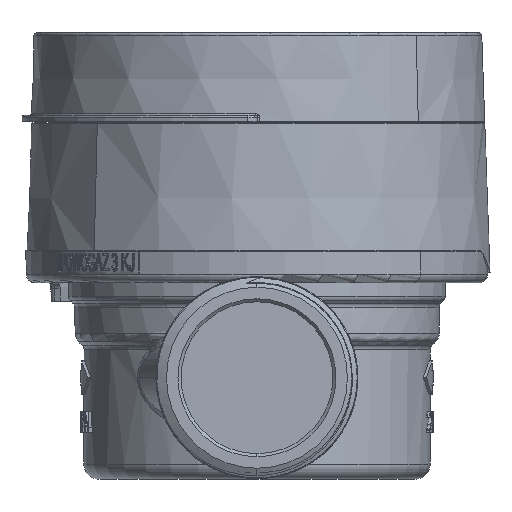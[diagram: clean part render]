
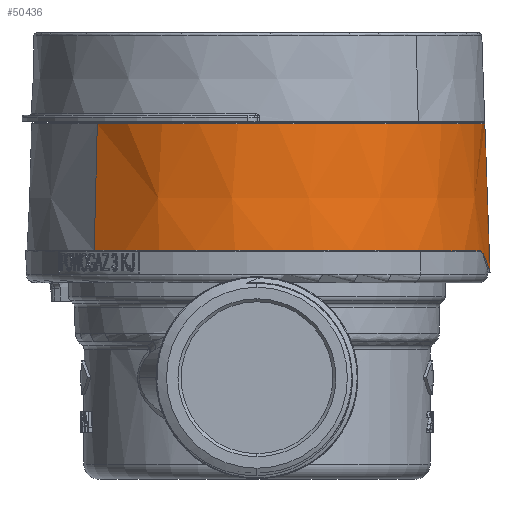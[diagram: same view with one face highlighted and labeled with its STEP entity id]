
A CAD part, left-side view. The second image highlights one B-rep face of the part: STEP entity #50436.
In plain terms, the highlighted conical face has half-angle 2 degrees and reference radius 37.9 mm.
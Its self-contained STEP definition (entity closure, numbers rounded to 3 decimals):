
#737 = DIRECTION ( 'NONE',  ( -1., 0., 0. ) ) ;
#5409 = VECTOR ( 'NONE', #50348, 1000. ) ;
#8907 = CARTESIAN_POINT ( 'NONE',  ( 24.17, 0.804, 29.559 ) ) ;
#11148 = EDGE_CURVE ( 'NONE', #49175, #13322, #40008, .T. ) ;
#11623 = CARTESIAN_POINT ( 'NONE',  ( 19.197, 3.362, 32.904 ) ) ;
#12052 = VERTEX_POINT ( 'NONE', #87187 ) ;
#12361 = CARTESIAN_POINT ( 'NONE',  ( 20.892, 2.696, 31.881 ) ) ;
#12384 = CARTESIAN_POINT ( 'NONE',  ( 18.419, 3.483, 33.341 ) ) ;
#12770 = DIRECTION ( 'NONE',  ( 0., -1., 0. ) ) ;
#13322 = VERTEX_POINT ( 'NONE', #12361 ) ;
#13926 = CARTESIAN_POINT ( 'NONE',  ( 0., 24.457, 0. ) ) ;
#16018 = CARTESIAN_POINT ( 'NONE',  ( 25.54, 0.226, 28.411 ) ) ;
#16767 = CARTESIAN_POINT ( 'NONE',  ( 25.385, 0.271, 28.548 ) ) ;
#16937 = EDGE_LOOP ( 'NONE', ( #69952, #126619, #107500, #19996, #81146, #101990, #61844, #57044 ) ) ;
#17194 = CONICAL_SURFACE ( 'NONE', #103723, 37.9, 0.035 ) ;
#19996 = ORIENTED_EDGE ( 'NONE', *, *, #41094, .T. ) ;
#21385 = EDGE_CURVE ( 'NONE', #138405, #56427, #88611, .T. ) ;
#23556 = LINE ( 'NONE', #35590, #130795 ) ;
#24172 = EDGE_CURVE ( 'NONE', #13322, #138405, #31382, .T. ) ;
#27313 = CARTESIAN_POINT ( 'NONE',  ( 25.571, 0.217, 28.383 ) ) ;
#28042 = CARTESIAN_POINT ( 'NONE',  ( 27.019, 0.002, 27.019 ) ) ;
#29565 = CARTESIAN_POINT ( 'NONE',  ( 25.588, 0.212, 28.368 ) ) ;
#31382 =( BOUNDED_CURVE ( )  B_SPLINE_CURVE ( 3, ( #37495, #83412, #96186, #129303 ),
 .UNSPECIFIED., .F., .F. ) 
 B_SPLINE_CURVE_WITH_KNOTS ( ( 4, 4 ),
 ( 5.276, 5.382 ),
 .UNSPECIFIED. ) 
 CURVE ( )  GEOMETRIC_REPRESENTATION_ITEM ( )  RATIONAL_B_SPLINE_CURVE ( ( 1., 0.999, 0.999, 1. ) ) 
 REPRESENTATION_ITEM ( '' )  );
#33374 = DIRECTION ( 'NONE',  ( -0.035, -0.999, 0. ) ) ;
#35590 = CARTESIAN_POINT ( 'NONE',  ( -37.9, 8.9, 0. ) ) ;
#36487 = VERTEX_POINT ( 'NONE', #145876 ) ;
#37495 = CARTESIAN_POINT ( 'NONE',  ( 20.892, 2.696, 31.881 ) ) ;
#37883 = CARTESIAN_POINT ( 'NONE',  ( 24.17, 0.804, 29.559 ) ) ;
#39380 = CARTESIAN_POINT ( 'NONE',  ( 24.988, 0.409, 28.889 ) ) ;
#40008 = B_SPLINE_CURVE_WITH_KNOTS ( 'NONE', 3,
 ( #94384, #83066, #12384, #105636, #11623, #103446, #128225, #68802 ),
 .UNSPECIFIED., .F., .F.,
 ( 4, 2, 2, 4 ),
 ( 0., 0.25, 0.5, 1. ),
 .UNSPECIFIED. ) ;
#41094 = EDGE_CURVE ( 'NONE', #12052, #49175, #98157, .T. ) ;
#44434 = DIRECTION ( 'NONE',  ( 0., -1., 0. ) ) ;
#48571 = DIRECTION ( 'NONE',  ( 0., -1., 0. ) ) ;
#49175 = VERTEX_POINT ( 'NONE', #141321 ) ;
#50348 = DIRECTION ( 'NONE',  ( 0.025, -0.999, 0.025 ) ) ;
#50436 = ADVANCED_FACE ( 'NONE', ( #103851 ), #17194, .T. ) ;
#56427 = VERTEX_POINT ( 'NONE', #118357 ) ;
#57044 = ORIENTED_EDGE ( 'NONE', *, *, #124590, .F. ) ;
#60295 = EDGE_CURVE ( 'NONE', #36487, #131196, #97787, .T. ) ;
#61309 = DIRECTION ( 'NONE',  ( 1., 0., 0. ) ) ;
#61844 = ORIENTED_EDGE ( 'NONE', *, *, #21385, .T. ) ;
#62620 = DIRECTION ( 'NONE',  ( 0., 1., 0. ) ) ;
#68802 = CARTESIAN_POINT ( 'NONE',  ( 20.892, 2.696, 31.881 ) ) ;
#69952 = ORIENTED_EDGE ( 'NONE', *, *, #60295, .T. ) ;
#74441 = EDGE_CURVE ( 'NONE', #126561, #12052, #23556, .T. ) ;
#76207 = CARTESIAN_POINT ( 'NONE',  ( 25.169, 0.341, 28.735 ) ) ;
#81091 = AXIS2_PLACEMENT_3D ( 'NONE', #119777, #62620, #131831 ) ;
#81146 = ORIENTED_EDGE ( 'NONE', *, *, #11148, .T. ) ;
#81155 = CARTESIAN_POINT ( 'NONE',  ( -37.357, 24.457, 0. ) ) ;
#83066 = CARTESIAN_POINT ( 'NONE',  ( 18.157, 3.5, 33.484 ) ) ;
#83412 = CARTESIAN_POINT ( 'NONE',  ( 22.026, 2.042, 31.166 ) ) ;
#83461 = LINE ( 'NONE', #86463, #5409 ) ;
#85306 = CARTESIAN_POINT ( 'NONE',  ( 26.066, 0.083, 27.942 ) ) ;
#86463 = CARTESIAN_POINT ( 'NONE',  ( 26.799, 8.9, 26.799 ) ) ;
#87187 = CARTESIAN_POINT ( 'NONE',  ( -38.089, 3.5, 0. ) ) ;
#88611 = B_SPLINE_CURVE_WITH_KNOTS ( 'NONE', 3,
 ( #37883, #131167, #119100, #39380, #76207, #16767, #143208, #16018, #27313, #29565, #85306, #143958, #28042 ),
 .UNSPECIFIED., .F., .F.,
 ( 4, 2, 1, 1, 1, 2, 2, 4 ),
 ( 0., 0.25, 0.375, 0.438, 0.469, 0.484, 0.5, 1. ),
 .UNSPECIFIED. ) ;
#91098 = DIRECTION ( 'NONE',  ( 1., 0., 0. ) ) ;
#94384 = CARTESIAN_POINT ( 'NONE',  ( 17.892, 3.5, 33.624 ) ) ;
#96186 = CARTESIAN_POINT ( 'NONE',  ( 23.119, 1.41, 30.391 ) ) ;
#97787 = CIRCLE ( 'NONE', #143429, 37.357 ) ;
#98157 = CIRCLE ( 'NONE', #81091, 38.089 ) ;
#101990 = ORIENTED_EDGE ( 'NONE', *, *, #24172, .T. ) ;
#103446 = CARTESIAN_POINT ( 'NONE',  ( 19.958, 3.158, 32.46 ) ) ;
#103723 = AXIS2_PLACEMENT_3D ( 'NONE', #110096, #44434, #737 ) ;
#103851 = FACE_OUTER_BOUND ( 'NONE', #16937, .T. ) ;
#105636 = CARTESIAN_POINT ( 'NONE',  ( 18.938, 3.414, 33.052 ) ) ;
#107500 = ORIENTED_EDGE ( 'NONE', *, *, #74441, .T. ) ;
#110096 = CARTESIAN_POINT ( 'NONE',  ( 0., 8.9, 0. ) ) ;
#118357 = CARTESIAN_POINT ( 'NONE',  ( 27.019, 0.002, 27.019 ) ) ;
#119100 = CARTESIAN_POINT ( 'NONE',  ( 24.629, 0.558, 29.19 ) ) ;
#119777 = CARTESIAN_POINT ( 'NONE',  ( 0., 3.5, 0. ) ) ;
#119872 = CIRCLE ( 'NONE', #122267, 37.357 ) ;
#122267 = AXIS2_PLACEMENT_3D ( 'NONE', #13926, #48571, #61309 ) ;
#124590 = EDGE_CURVE ( 'NONE', #36487, #56427, #83461, .T. ) ;
#126561 = VERTEX_POINT ( 'NONE', #81155 ) ;
#126619 = ORIENTED_EDGE ( 'NONE', *, *, #148684, .T. ) ;
#128225 = CARTESIAN_POINT ( 'NONE',  ( 20.438, 2.958, 32.167 ) ) ;
#129303 = CARTESIAN_POINT ( 'NONE',  ( 24.17, 0.804, 29.559 ) ) ;
#130795 = VECTOR ( 'NONE', #33374, 1000. ) ;
#131167 = CARTESIAN_POINT ( 'NONE',  ( 24.396, 0.673, 29.38 ) ) ;
#131196 = VERTEX_POINT ( 'NONE', #141745 ) ;
#131831 = DIRECTION ( 'NONE',  ( -1., 0., 0. ) ) ;
#138405 = VERTEX_POINT ( 'NONE', #8907 ) ;
#141321 = CARTESIAN_POINT ( 'NONE',  ( 17.892, 3.5, 33.624 ) ) ;
#141745 = CARTESIAN_POINT ( 'NONE',  ( 0., 24.457, 37.357 ) ) ;
#143208 = CARTESIAN_POINT ( 'NONE',  ( 25.493, 0.239, 28.452 ) ) ;
#143429 = AXIS2_PLACEMENT_3D ( 'NONE', #148262, #12770, #91098 ) ;
#143958 = CARTESIAN_POINT ( 'NONE',  ( 26.54, 0.014, 27.498 ) ) ;
#145876 = CARTESIAN_POINT ( 'NONE',  ( 26.415, 24.457, 26.415 ) ) ;
#148262 = CARTESIAN_POINT ( 'NONE',  ( 0., 24.457, 0. ) ) ;
#148684 = EDGE_CURVE ( 'NONE', #131196, #126561, #119872, .T. ) ;
